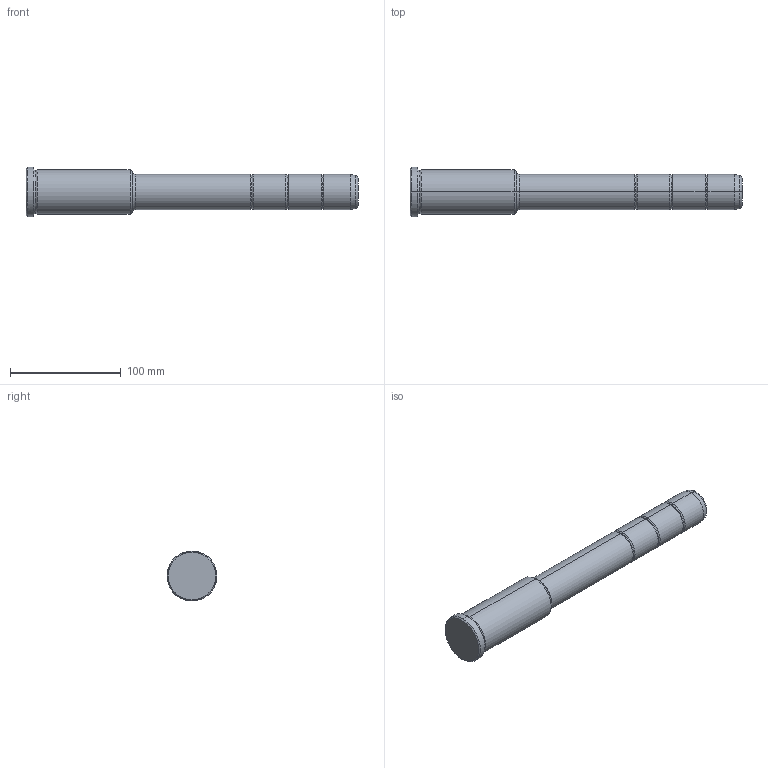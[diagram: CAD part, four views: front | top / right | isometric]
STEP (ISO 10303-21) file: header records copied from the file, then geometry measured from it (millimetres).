
FILE_DESCRIPTION(('CATIA V5 STEP Exchange'),'2;1');
FILE_NAME('C:\Users\Utente\Desktop\IO LAVORO\3D X SITO CF\X SITO\PLASTICA\351\351-32X96X300.stp','2021-09-10T12:30:39+00:00',('none'),('none'),'CATIA Version 5 Release 20 GA (IN-10)','CATIA V5 STEP AP203','none');
FILE_SCHEMA(('CONFIG_CONTROL_DESIGN'));
Length unit declared in the file: millimetre
Products named in the file (1): 351-32X96X300
Bounding box: 300 x 45 x 45 mm (x, y, z)
Volume: 285693.1 mm3; surface area: 35487.4 mm2
Topology: 1 solids, 1 shells, 42 faces, 118 edges, 80 vertices
Faces by surface type: torus 20, cylinder 12, cone 6, plane 4
Entity records: 1472 total; most frequent: CARTESIAN_POINT 353, ORIENTED_EDGE 236, DIRECTION 194, AXIS2_PLACEMENT_3D 135, EDGE_CURVE 118, CIRCLE 92, VERTEX_POINT 80, EDGE_LOOP 44
